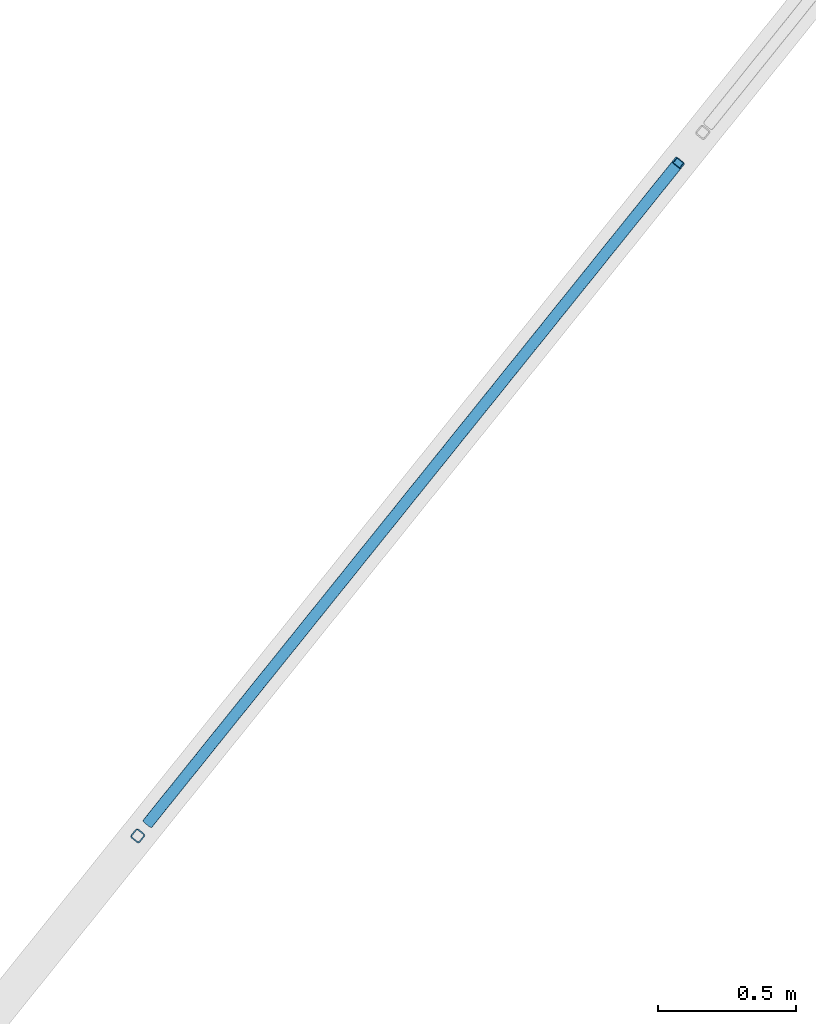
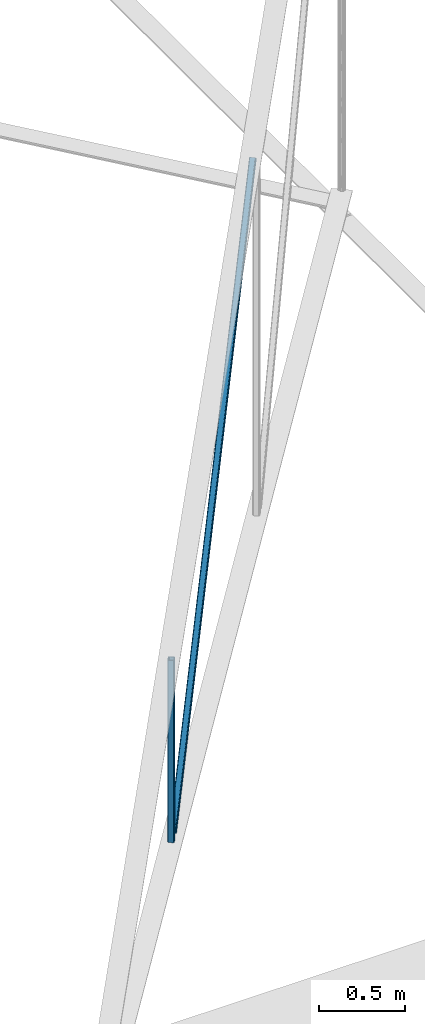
# One storey, part 1 of 15: 2 members, 1 element without a shape of its own.
"""IFC4 building model written with IfcOpenShell, lengths in metres."""

from ifc_helpers import new_model, entity, si_unit, converted_unit, derived_unit, direction, frame, origin, place, context, subcontext, project, spatial, line, arc, indexed_curve, outline, extrude, source, transform, mapped, material, type_object, type_shapes, element, aggregate, save


model = new_model("IFC4")

# Units and contexts
model_context = context("Model", 3, precision=1e-05, world=origin(), true_north=direction((6.123031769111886e-17, 1.0)))
body_context = subcontext(model_context, "Body", "Model", "MODEL_VIEW")
ifc_project = project(units=[si_unit("LENGTHUNIT", "METRE"), si_unit("AREAUNIT", "SQUARE_METRE"), si_unit("VOLUMEUNIT", "CUBIC_METRE"), converted_unit("PLANEANGLEUNIT", "DEGREE", entity("IfcRatioMeasure", 0.017453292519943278), si_unit("PLANEANGLEUNIT", "RADIAN"), dimensions=[0, 0, 0, 0, 0, 0, 0]), si_unit("MASSUNIT", "GRAM", prefix="KILO"), derived_unit("MASSDENSITYUNIT", [(si_unit("MASSUNIT", "GRAM", prefix="KILO"), 1), (si_unit("LENGTHUNIT", "METRE"), -3)]), derived_unit("MOMENTOFINERTIAUNIT", [(si_unit("LENGTHUNIT", "METRE"), 4)]), si_unit("TIMEUNIT", "SECOND"), si_unit("FREQUENCYUNIT", "HERTZ"), si_unit("THERMODYNAMICTEMPERATUREUNIT", "DEGREE_CELSIUS"), derived_unit("THERMALTRANSMITTANCEUNIT", [(si_unit("MASSUNIT", "GRAM", prefix="KILO"), 1), (si_unit("THERMODYNAMICTEMPERATUREUNIT", "KELVIN"), -1), (si_unit("TIMEUNIT", "SECOND"), -3)]), derived_unit("VOLUMETRICFLOWRATEUNIT", [(si_unit("LENGTHUNIT", "METRE"), 3), (si_unit("TIMEUNIT", "SECOND"), -1)]), derived_unit("MASSFLOWRATEUNIT", [(si_unit("MASSUNIT", "GRAM", prefix="KILO"), 1), (si_unit("TIMEUNIT", "SECOND"), -1)]), derived_unit("ROTATIONALFREQUENCYUNIT", [(si_unit("TIMEUNIT", "SECOND"), -1)]), si_unit("ELECTRICCURRENTUNIT", "AMPERE"), si_unit("ELECTRICVOLTAGEUNIT", "VOLT"), si_unit("POWERUNIT", "WATT"), si_unit("FORCEUNIT", "NEWTON", prefix="KILO"), si_unit("ILLUMINANCEUNIT", "LUX"), si_unit("LUMINOUSFLUXUNIT", "LUMEN"), si_unit("LUMINOUSINTENSITYUNIT", "CANDELA"), derived_unit("USERDEFINED", [(si_unit("MASSUNIT", "GRAM", prefix="KILO"), -1), (si_unit("LENGTHUNIT", "METRE"), -2), (si_unit("TIMEUNIT", "SECOND"), 3), (si_unit("LUMINOUSFLUXUNIT", "LUMEN"), 1)]), derived_unit("SOUNDPOWERUNIT", [(si_unit("MASSUNIT", "GRAM", prefix="KILO"), 1), (si_unit("LENGTHUNIT", "METRE"), 2), (si_unit("TIMEUNIT", "SECOND"), -3)]), derived_unit("SOUNDPRESSUREUNIT", [(si_unit("MASSUNIT", "GRAM", prefix="KILO"), 1), (si_unit("LENGTHUNIT", "METRE"), -1), (si_unit("TIMEUNIT", "SECOND"), -2)]), derived_unit("LINEARVELOCITYUNIT", [(si_unit("LENGTHUNIT", "METRE"), 1), (si_unit("TIMEUNIT", "SECOND"), -1)]), si_unit("PRESSUREUNIT", "PASCAL"), derived_unit("USERDEFINED", [(si_unit("LENGTHUNIT", "METRE"), -2), (si_unit("MASSUNIT", "GRAM", prefix="KILO"), 1), (si_unit("TIMEUNIT", "SECOND"), -2)]), derived_unit("LINEARFORCEUNIT", [(si_unit("MASSUNIT", "GRAM", prefix="KILO"), 1), (si_unit("LENGTHUNIT", "METRE"), 1), (si_unit("TIMEUNIT", "SECOND"), -2), (si_unit("LENGTHUNIT", "METRE"), -1)]), derived_unit("PLANARFORCEUNIT", [(si_unit("MASSUNIT", "GRAM", prefix="KILO"), 1), (si_unit("LENGTHUNIT", "METRE"), 1), (si_unit("TIMEUNIT", "SECOND"), -2), (si_unit("LENGTHUNIT", "METRE"), -2)])], contexts=[model_context])

# Site, building, storey
site_placement = place(None, origin())
site = spatial("IfcSite", under=ifc_project, at=site_placement, Name="Superficie", CompositionType="ELEMENT")
building_placement = place(site_placement, origin())
building = spatial("IfcBuilding", under=site, at=building_placement, CompositionType="ELEMENT")
storey_placement = place(building_placement, frame((0.0, 0.0, 7.25)))
storey = spatial("IfcBuildingStorey", under=building, at=storey_placement, Name="Nivel 2", CompositionType="ELEMENT", Elevation=7.25)

# Assembly, members
assembly_placement = place(storey_placement, origin())
assembly = element("IfcElementAssembly", 1, at=assembly_placement, inside=storey, Name="Cercha esquina:Cercha esquina", ObjectType="Cercha esquina:Cercha esquina", AssemblyPlace="NOTDEFINED", PredefinedType="TRUSS")
ifc_material = material(Name="Metal - Acero - 345 MPa", Category="Metal")
member_type_1 = type_object("IfcMemberType", Name="HSS-Sección estructural hueca:HSS41.3X41.3X4.8", PredefinedType="BRACE", material=ifc_material)
shared_shape_1 = source(origin(), body_context, "Body", "SweptSolid", [
    extrude(outline(indexed_curve([(-0.011809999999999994, -0.020650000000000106), (0.011809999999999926, -0.020650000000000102), (0.01806082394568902, -0.01806082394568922), (0.020649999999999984, -0.011810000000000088), (0.020649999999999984, 0.011810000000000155), (0.018060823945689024, 0.018060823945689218), (0.011809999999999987, 0.0206500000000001), (-0.011809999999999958, 0.0206500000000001), (-0.01806082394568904, 0.018060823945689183), (-0.020649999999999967, 0.011810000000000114), (-0.020649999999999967, -0.01181000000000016), (-0.018060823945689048, -0.018060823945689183)], segments=[line(1, 2), arc(2, 3, 4), line(4, 5), arc(5, 6, 7), line(7, 8), arc(8, 9, 10), line(10, 11), arc(11, 12, 1)], self_intersect=False), holes=[indexed_curve([(-0.01623000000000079, 0.01180999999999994), (-0.014935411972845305, 0.014935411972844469), (-0.011810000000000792, 0.016229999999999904), (0.01180999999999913, 0.016229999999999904), (0.01493541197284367, 0.014935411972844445), (0.01622999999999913, 0.01180999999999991), (0.01622999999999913, -0.011809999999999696), (0.014935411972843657, -0.014935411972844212), (0.01180999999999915, -0.01622999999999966), (-0.011810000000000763, -0.01622999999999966), (-0.014935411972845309, -0.01493541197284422), (-0.01623000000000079, -0.011809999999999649)], segments=[arc(1, 2, 3), line(3, 4), arc(4, 5, 6), line(6, 7), arc(7, 8, 9), line(9, 10), arc(10, 11, 12), line(12, 1)], self_intersect=False)]), frame((-0.655, 0.0, 0.0), z_axis=(1.0, 0.0, 0.0), x_axis=(0.0, 0.0, -1.0)), (0.0, 0.0, 1.0), 1.298),
])
type_shapes(member_type_1, [shared_shape_1])
member_1_placement = place(assembly_placement, frame((-20.580641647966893, -7.048560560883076, 0.8674882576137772), z_axis=(0.6262435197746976, 0.7796275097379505, 0.0), x_axis=(0.0, 0.0, 1.0)))
member_1 = element("IfcMember", 2, at=member_1_placement, type_object=member_type_1, material=ifc_material, Name="HSS-Sección estructural hueca:HSS41.3X41.3X4.8", ObjectType="HSS-Sección estructural hueca:HSS41.3X41.3X4.8", PredefinedType="BRACE", context=body_context, shape_type="MappedRepresentation", body=[
    mapped(shared_shape_1, transform((0.0, 0.0, 0.0), scale=1.0)),
])
member_type_2 = type_object("IfcMemberType", Name="HSS-Sección estructural hueca:HSS41.3X41.3X4.8", PredefinedType="BRACE", material=ifc_material)
shared_shape_2 = source(origin(), body_context, "Body", "SweptSolid", [
    extrude(outline(indexed_curve([(-0.011809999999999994, -0.020650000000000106), (0.011809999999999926, -0.020650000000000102), (0.01806082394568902, -0.01806082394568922), (0.020649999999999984, -0.011810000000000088), (0.020649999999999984, 0.011810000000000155), (0.018060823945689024, 0.018060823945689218), (0.011809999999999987, 0.0206500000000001), (-0.011809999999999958, 0.0206500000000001), (-0.01806082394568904, 0.018060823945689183), (-0.020649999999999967, 0.011810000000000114), (-0.020649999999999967, -0.01181000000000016), (-0.018060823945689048, -0.018060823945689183)], segments=[line(1, 2), arc(2, 3, 4), line(4, 5), arc(5, 6, 7), line(7, 8), arc(8, 9, 10), line(10, 11), arc(11, 12, 1)], self_intersect=False), holes=[indexed_curve([(-0.01623000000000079, 0.01180999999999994), (-0.014935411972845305, 0.014935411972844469), (-0.011810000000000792, 0.016229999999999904), (0.01180999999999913, 0.016229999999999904), (0.01493541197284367, 0.014935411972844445), (0.01622999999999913, 0.01180999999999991), (0.01622999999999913, -0.011809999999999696), (0.014935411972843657, -0.014935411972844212), (0.01180999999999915, -0.01622999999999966), (-0.011810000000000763, -0.01622999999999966), (-0.014935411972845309, -0.01493541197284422), (-0.01623000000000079, -0.011809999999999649)], segments=[arc(1, 2, 3), line(3, 4), arc(4, 5, 6), line(6, 7), arc(7, 8, 9), line(9, 10), arc(10, 11, 12), line(12, 1)], self_intersect=False)]), frame((-2.0860000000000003, 0.0, 0.0), z_axis=(1.0, 0.0, 0.0), x_axis=(0.0, 0.0, -1.0)), (0.0, 0.0, 1.0), 4.071),
])
type_shapes(member_type_2, [shared_shape_2])
member_2_placement = place(assembly_placement, frame((-19.558644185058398, -5.776248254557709, 1.6022725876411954), z_axis=(0.4135460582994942, 0.5148346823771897, -0.7509493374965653), x_axis=(0.4702771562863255, 0.5854607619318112, 0.660359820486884)))
member_2 = element("IfcMember", 3, at=member_2_placement, type_object=member_type_2, material=ifc_material, Name="HSS-Sección estructural hueca:HSS41.3X41.3X4.8", ObjectType="HSS-Sección estructural hueca:HSS41.3X41.3X4.8", PredefinedType="BRACE", context=body_context, shape_type="MappedRepresentation", body=[
    mapped(shared_shape_2, transform((0.0, 0.0, 0.0), scale=1.0)),
])
aggregate(assembly, [member_1, member_2])

save(model, "model.ifc")
